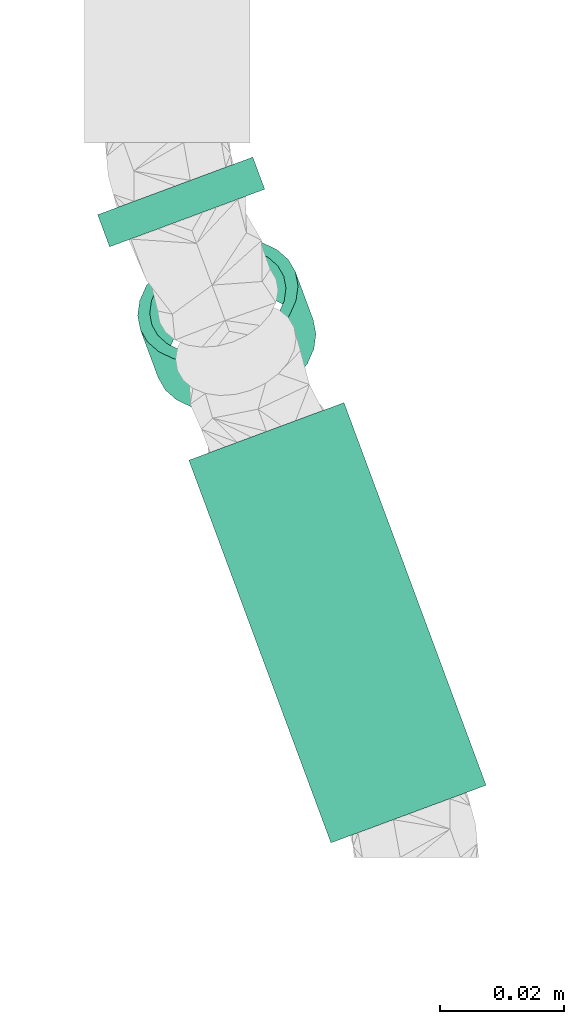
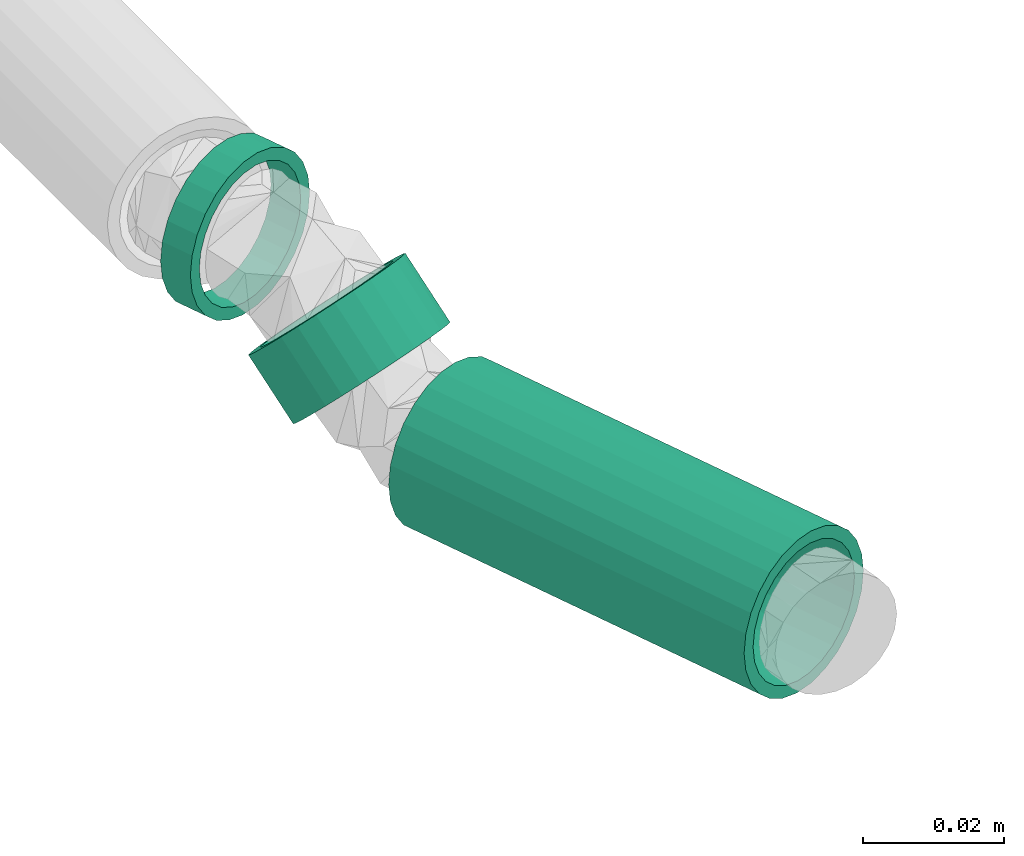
# One storey, part 97 of 156: 3 flow segments.
"""IFC2X3 building model written with IfcOpenShell, lengths in millimetres."""

from ifc_helpers import new_model, entity, si_unit, converted_unit, derived_unit, direction, frame, origin_with_axes, origin_2d_with_axis, place, context, subcontext, project, spatial, hollow_circle, extrude, source, transform, mapped, type_object, element, save


model = new_model("IFC2X3")

# Units and contexts
model_context = context("Model", 3, precision=0.01, world=frame((0.0, 4.29681676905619e-09, 0.0)), true_north=direction((4.01073788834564e-13, 1.0)))
plan_context = context("Plan", 3, precision=0.01, world=frame((0.0, 4.29681676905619e-09, 0.0)), true_north=direction((4.01073788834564e-13, 1.0)))
body_context = subcontext(model_context, "Body", "Model", "MODEL_VIEW")
ifc_project = project(units=[converted_unit("PLANEANGLEUNIT", "DEGREE", entity("IfcPositiveLengthMeasure", 0.0174532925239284), si_unit("PLANEANGLEUNIT", "RADIAN"), dimensions=[0, 0, 0, 0, 0, 0, 0]), si_unit("AREAUNIT", "SQUARE_METRE"), si_unit("LENGTHUNIT", "METRE", prefix="MILLI"), si_unit("MASSUNIT", "GRAM", prefix="KILO"), si_unit("POWERUNIT", "WATT"), si_unit("PRESSUREUNIT", "PASCAL", prefix="KILO"), si_unit("FORCEUNIT", "NEWTON", prefix="KILO"), si_unit("ELECTRICVOLTAGEUNIT", "VOLT"), si_unit("ELECTRICCURRENTUNIT", "AMPERE"), si_unit("THERMODYNAMICTEMPERATUREUNIT", "DEGREE_CELSIUS"), si_unit("TIMEUNIT", "SECOND"), si_unit("VOLUMEUNIT", "CUBIC_METRE"), derived_unit("LINEARVELOCITYUNIT", [(si_unit("LENGTHUNIT", "METRE"), 1), (si_unit("TIMEUNIT", "SECOND"), -1)]), derived_unit("VOLUMETRICFLOWRATEUNIT", [(si_unit("VOLUMEUNIT", "CUBIC_METRE"), 1), (si_unit("TIMEUNIT", "SECOND"), -1)]), derived_unit("THERMALTRANSMITTANCEUNIT", [(si_unit("POWERUNIT", "WATT"), 1), (si_unit("THERMODYNAMICTEMPERATUREUNIT", "KELVIN"), -1), (si_unit("AREAUNIT", "SQUARE_METRE"), -1)]), derived_unit("SOUNDPRESSUREUNIT", [(si_unit("PRESSUREUNIT", "PASCAL"), 1)])], contexts=[model_context, plan_context])

# Site, building, storey
site_placement = place(None, frame((0.0, -4.29681676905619e-09, 0.0), z_axis=(0.0, 0.0, 1.0), x_axis=(1.0, 0.0, 0.0)))
site = spatial("IfcSite", under=ifc_project, at=site_placement, CompositionType="ELEMENT")
building_placement = place(site_placement, frame((0.0, 4.29681676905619e-09, 0.0), z_axis=(0.0, 0.0, 1.0), x_axis=(1.0, 0.0, 0.0)))
building = spatial("IfcBuilding", under=site, at=building_placement, Name="mc-building", CompositionType="ELEMENT")
storey_placement = place(building_placement, frame((0.0, 0.0, 205200.0), z_axis=(0.0, 0.0, 1.0), x_axis=(1.0, 0.0, 0.0)))
storey = spatial("IfcBuildingStorey", under=building, at=storey_placement, Name="Nivå D + 1,2 m", CompositionType="ELEMENT", Elevation=205200.0)

# Flow segments
pipe_segment_type = type_object("IfcPipeSegmentType", Name="Stålrør normaltykke", PredefinedType="RIGIDSEGMENT")
shared_shape_1 = source(origin_with_axes(), body_context, "Body", "SweptSolid", [
    extrude(hollow_circle(Radius=13.3, WallThickness=2.0, at=origin_2d_with_axis()), frame((0.0, 0.0, 0.0), z_axis=(1.0, 0.0, 0.0), x_axis=(0.0, 1.0, 0.0)), (0.0, 0.0, 1.0), 65.6),
])
flow_segment_1_placement = place(storey_placement, frame((329243.68512, 466516.65904, 4102.79999), z_axis=(0.0, 0.0, 1.0), x_axis=(0.348154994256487, -0.937436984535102, 0.0)))
element("IfcFlowSegment", 1, at=flow_segment_1_placement, inside=storey, type_object=pipe_segment_type, Name="Stålrør normaltykke", context=body_context, shape_type="MappedRepresentation", body=[
    mapped(shared_shape_1, transform((0.0, 0.0, 0.0), scale=1.0)),
])
shared_shape_2 = source(origin_with_axes(), body_context, "Body", "SweptSolid", [
    extrude(hollow_circle(Radius=13.3, WallThickness=2.0, at=origin_2d_with_axis()), frame((0.0, 0.0, 0.0), z_axis=(1.0, 0.0, 0.0), x_axis=(0.0, 1.0, 0.0)), (0.0, 0.0, 1.0), 5.5),
])
flow_segment_2_placement = place(storey_placement, frame((329229.02991, 466556.11941, 4122.79999), z_axis=(0.0, 0.0, 1.0), x_axis=(0.348154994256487, -0.937436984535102, 0.0)))
element("IfcFlowSegment", 2, at=flow_segment_2_placement, inside=storey, type_object=pipe_segment_type, Name="Stålrør normaltykke", context=body_context, shape_type="MappedRepresentation", body=[
    mapped(shared_shape_2, transform((0.0, 0.0, 0.0), scale=1.0)),
])
shared_shape_3 = source(origin_with_axes(), body_context, "Body", "SweptSolid", [
    extrude(hollow_circle(Radius=13.3, WallThickness=2.0, at=origin_2d_with_axis()), frame((0.0, 0.0, 0.0), z_axis=(1.0, 0.0, 0.0), x_axis=(0.0, 1.0, 0.0)), (0.0, 0.0, 1.0), 11.7),
])
flow_segment_3_placement = place(storey_placement, frame((329235.87732, 466537.6822, 4116.94203999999), z_axis=(0.246184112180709, -0.662872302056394, 0.707102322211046), x_axis=(0.24618098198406, -0.662863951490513, -0.707111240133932)))
element("IfcFlowSegment", 3, at=flow_segment_3_placement, inside=storey, type_object=pipe_segment_type, Name="Stålrør normaltykke", context=body_context, shape_type="MappedRepresentation", body=[
    mapped(shared_shape_3, transform((0.0, 0.0, 0.0), scale=1.0)),
])

save(model, "model.ifc")
